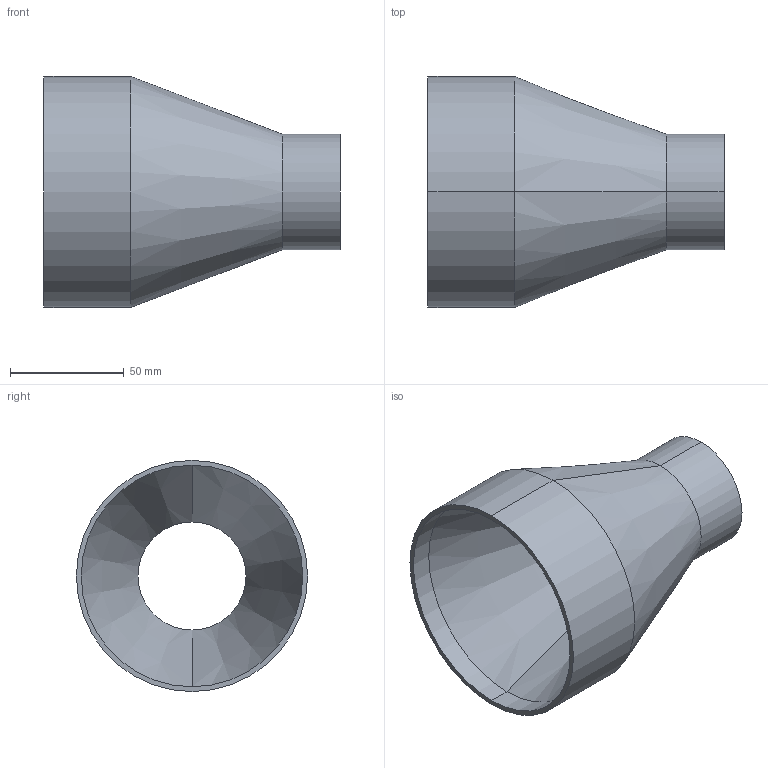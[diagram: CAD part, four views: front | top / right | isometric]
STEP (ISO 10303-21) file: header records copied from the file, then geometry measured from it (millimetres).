
FILE_DESCRIPTION (( 'STEP AP214' ), '1' );
FILE_NAME ('TE31SWW6L4.0x2.0-...STEP', '2016-05-29T10:07:24', ( 'eran' ), ( '' ), 'SwSTEP 2.0', 'SolidWorks 2016', '' );
FILE_SCHEMA (( 'AUTOMOTIVE_DESIGN' ));
Length unit declared in the file: millimetre
Products named in the file (1): TE31SWW6L4.0x2.0-..
Bounding box: 130.18 x 101.6 x 101.6 mm (x, y, z)
Volume: 226029.3 mm3; surface area: 61312.7 mm2
Topology: 1 solids, 1 shells, 14 faces, 28 edges, 16 vertices
Faces by surface type: cylinder 8, cone 4, plane 2
Entity records: 402 total; most frequent: DIRECTION 74, CARTESIAN_POINT 59, ORIENTED_EDGE 56, AXIS2_PLACEMENT_3D 31, EDGE_CURVE 28, EDGE_LOOP 16, CIRCLE 16, VERTEX_POINT 16
